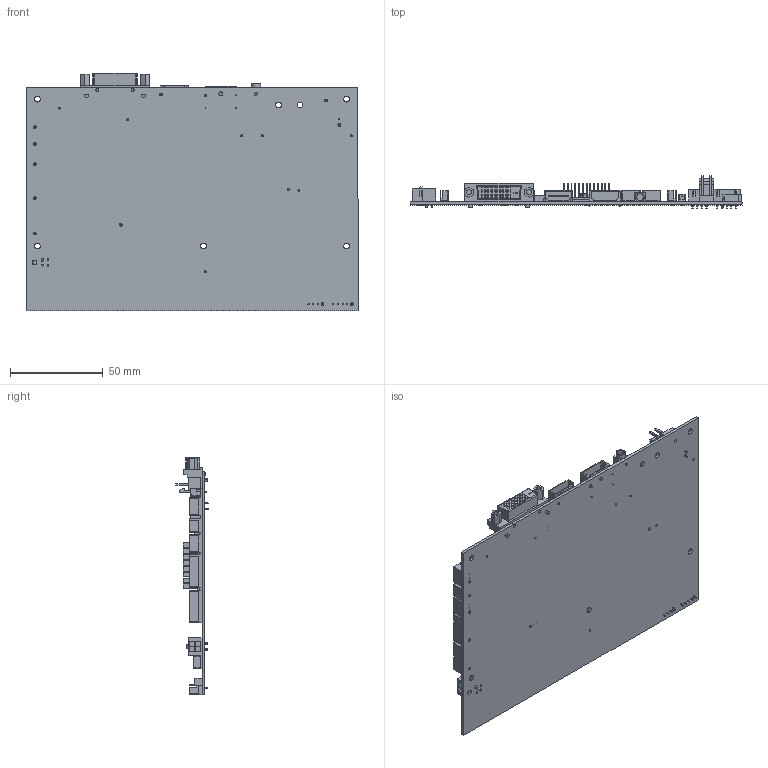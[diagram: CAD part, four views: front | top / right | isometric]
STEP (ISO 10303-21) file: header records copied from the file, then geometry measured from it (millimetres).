
FILE_DESCRIPTION (( 'STEP AP203' ), '1' );
FILE_NAME ('Assy PCB SVX-1920-PRO 417730010-3 210630.STEP', '2021-06-30T20:59:03', ( '' ), ( '' ), 'SwSTEP 2.0', 'SolidWorks 2020', '' );
FILE_SCHEMA (( 'CONFIG_CONTROL_DESIGN' ));
Length unit declared in the file: inch
Products named in the file (21): 210082402-3 Power 2P RA; 210065212-3 Header 12P Horiz; 210010004-3 2.5-F-04p; 210062710-3 Hdr Vert 10P Dual; 210082102-3 Hdr 2P Vert Lkg; 212020013-3 3.5mm Stereo Jack; 210084030-3 DVI-pcbJack; 210010005-3 2.5-F-05p; 210061106-3 1.25-F-6P; 212202001-3 Display Port; PCB SVX-1920-PRO 417730010-3; 210010002-3 2.5-F-02p; 210010006-3 2.5-F-06p; 210010003-3 2.5-F-03p; 210061112-3 1.25-F-12P; Assy PCB SVX-1920-PRO 417730010-3 210630; 215090251-3 LVDS 51 pin; 210018004-3 PH Conn 2.0-F-04p; 215090241-3 LVDS 41 pin; 212200190-3 HDMI; 210082604-3 Power Plug 2x2
Assembly tree (26 placements, depth 2):
  Assy PCB SVX-1920-PRO 417730010-3 210630
    PCB SVX-1920-PRO 417730010-3
    210082102-3 Hdr 2P Vert Lkg
    210082604-3 Power Plug 2x2
    210084030-3 DVI-pcbJack
    212200190-3 HDMI
    215090251-3 LVDS 51 pin
    210010002-3 2.5-F-02p
    210010003-3 2.5-F-03p  x3
    210010004-3 2.5-F-04p
    210010005-3 2.5-F-05p
    210010006-3 2.5-F-06p  x2
    210018004-3 PH Conn 2.0-F-04p  x4
    210061112-3 1.25-F-12P
    210082402-3 Power 2P RA
    215090241-3 LVDS 41 pin
    212202001-3 Display Port
    212020013-3 3.5mm Stereo Jack
    210065212-3 Header 12P Horiz
    210061106-3 1.25-F-6P
    210062710-3 Hdr Vert 10P Dual
Bounding box: 179.07 x 17.28 x 128.36 mm (x, y, z)
Volume: 47323.2 mm3; surface area: 66989 mm2
Topology: 26 solids, 26 shells, 2472 faces, 5965 edges, 3860 vertices
Faces by surface type: plane 2146, cylinder 322, sphere 4
Entity records: 63044 total; most frequent: CARTESIAN_POINT 10532, ORIENTED_EDGE 10170, DIRECTION 9969, EDGE_CURVE 5085, VECTOR 4511, LINE 4511, VERTEX_POINT 3276, AXIS2_PLACEMENT_3D 2729
